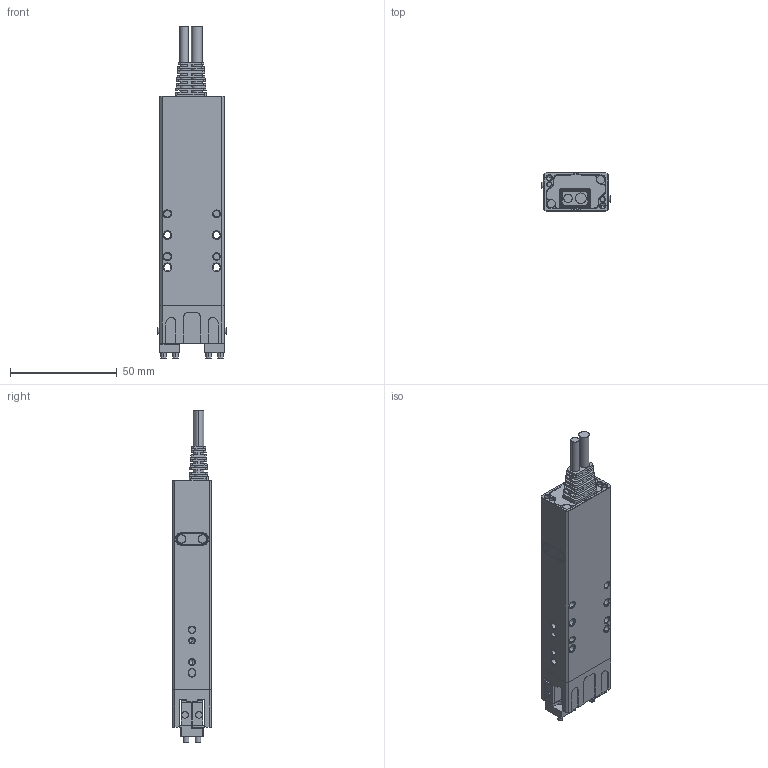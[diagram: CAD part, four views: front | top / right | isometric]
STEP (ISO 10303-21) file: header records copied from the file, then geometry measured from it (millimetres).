
FILE_DESCRIPTION (( 'STEP AP214' ), '1' );
FILE_NAME ('PGE-15-10-W-B.STEP', '2023-07-19T03:54:32', ( '' ), ( '' ), 'SwSTEP 2.0', 'SolidWorks 2020', '' );
FILE_SCHEMA (( 'AUTOMOTIVE_DESIGN' ));
Length unit declared in the file: millimetre
Products named in the file (3): PGE-15-10-W-B; 忒硌價釱; 菁堤俋褲
Assembly tree (3 placements, depth 2):
  PGE-15-10-W-B
    菁堤俋褲
    忒硌價釱  x2
Bounding box: 31.8 x 18 x 155.2 mm (x, y, z)
Volume: 61828.2 mm3; surface area: 25486.6 mm2
Topology: 25 solids, 25 shells, 946 faces, 2295 edges, 1434 vertices
Faces by surface type: plane 443, cylinder 331, cone 172
Entity records: 34239 total; most frequent: CARTESIAN_POINT 4715, DIRECTION 4313, ORIENTED_EDGE 4100, EDGE_CURVE 2050, AXIS2_PLACEMENT_3D 1508, VERTEX_POINT 1302, VECTOR 1297, LINE 1297
